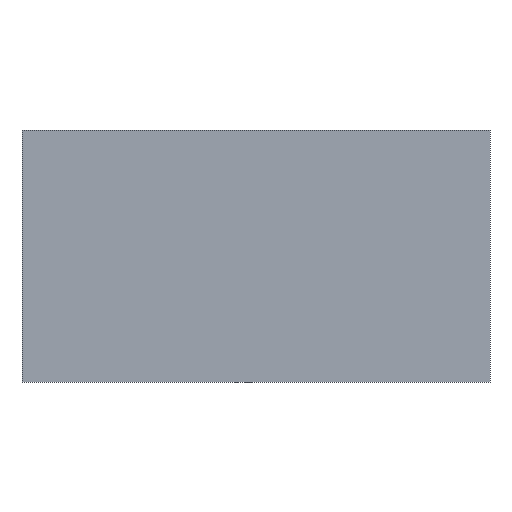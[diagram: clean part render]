
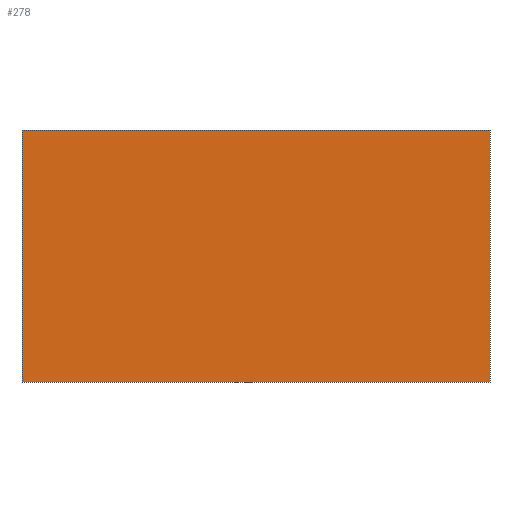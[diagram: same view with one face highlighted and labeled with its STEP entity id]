
A CAD part, front view. The second image highlights one B-rep face of the part: STEP entity #278.
In plain terms, the highlighted planar face has unit normal (0, -1, 0).
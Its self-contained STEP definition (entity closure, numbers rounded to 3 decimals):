
#62 = EDGE_CURVE('',#63,#65,#67,.T.);
#63 = VERTEX_POINT('',#64);
#64 = CARTESIAN_POINT('',(-26.,-0.25,-14.));
#65 = VERTEX_POINT('',#66);
#66 = CARTESIAN_POINT('',(-26.,-0.25,14.));
#67 = SURFACE_CURVE('',#68,(#72,#84),.PCURVE_S1.);
#68 = LINE('',#69,#70);
#69 = CARTESIAN_POINT('',(-26.,-0.25,-14.));
#70 = VECTOR('',#71,1.);
#71 = DIRECTION('',(0.,0.,1.));
#72 = PCURVE('',#73,#78);
#73 = PLANE('',#74);
#74 = AXIS2_PLACEMENT_3D('',#75,#76,#77);
#75 = CARTESIAN_POINT('',(-26.,-0.25,-14.));
#76 = DIRECTION('',(1.,0.,0.));
#77 = DIRECTION('',(0.,0.,1.));
#78 = DEFINITIONAL_REPRESENTATION('',(#79),#83);
#79 = LINE('',#80,#81);
#80 = CARTESIAN_POINT('',(0.,0.));
#81 = VECTOR('',#82,1.);
#82 = DIRECTION('',(1.,0.));
#83 = ( GEOMETRIC_REPRESENTATION_CONTEXT(2) 
PARAMETRIC_REPRESENTATION_CONTEXT() REPRESENTATION_CONTEXT('2D SPACE',''
  ) );
#84 = PCURVE('',#85,#90);
#85 = PLANE('',#86);
#86 = AXIS2_PLACEMENT_3D('',#87,#88,#89);
#87 = CARTESIAN_POINT('',(-26.,-0.25,-14.));
#88 = DIRECTION('',(0.,1.,0.));
#89 = DIRECTION('',(0.,-0.,1.));
#90 = DEFINITIONAL_REPRESENTATION('',(#91),#95);
#91 = LINE('',#92,#93);
#92 = CARTESIAN_POINT('',(0.,0.));
#93 = VECTOR('',#94,1.);
#94 = DIRECTION('',(1.,0.));
#95 = ( GEOMETRIC_REPRESENTATION_CONTEXT(2) 
PARAMETRIC_REPRESENTATION_CONTEXT() REPRESENTATION_CONTEXT('2D SPACE',''
  ) );
#113 = PLANE('',#114);
#114 = AXIS2_PLACEMENT_3D('',#115,#116,#117);
#115 = CARTESIAN_POINT('',(-26.,-0.25,-14.));
#116 = DIRECTION('',(0.,0.,1.));
#117 = DIRECTION('',(1.,0.,-0.));
#167 = PLANE('',#168);
#168 = AXIS2_PLACEMENT_3D('',#169,#170,#171);
#169 = CARTESIAN_POINT('',(-26.,-0.25,14.));
#170 = DIRECTION('',(0.,0.,1.));
#171 = DIRECTION('',(1.,0.,-0.));
#182 = EDGE_CURVE('',#183,#185,#187,.T.);
#183 = VERTEX_POINT('',#184);
#184 = CARTESIAN_POINT('',(26.,-0.25,-14.));
#185 = VERTEX_POINT('',#186);
#186 = CARTESIAN_POINT('',(26.,-0.25,14.));
#187 = SURFACE_CURVE('',#188,(#192,#204),.PCURVE_S1.);
#188 = LINE('',#189,#190);
#189 = CARTESIAN_POINT('',(26.,-0.25,-14.));
#190 = VECTOR('',#191,1.);
#191 = DIRECTION('',(0.,0.,1.));
#192 = PCURVE('',#193,#198);
#193 = PLANE('',#194);
#194 = AXIS2_PLACEMENT_3D('',#195,#196,#197);
#195 = CARTESIAN_POINT('',(26.,-0.25,-14.));
#196 = DIRECTION('',(1.,0.,0.));
#197 = DIRECTION('',(0.,0.,1.));
#198 = DEFINITIONAL_REPRESENTATION('',(#199),#203);
#199 = LINE('',#200,#201);
#200 = CARTESIAN_POINT('',(0.,0.));
#201 = VECTOR('',#202,1.);
#202 = DIRECTION('',(1.,0.));
#203 = ( GEOMETRIC_REPRESENTATION_CONTEXT(2) 
PARAMETRIC_REPRESENTATION_CONTEXT() REPRESENTATION_CONTEXT('2D SPACE',''
  ) );
#204 = PCURVE('',#85,#205);
#205 = DEFINITIONAL_REPRESENTATION('',(#206),#210);
#206 = LINE('',#207,#208);
#207 = CARTESIAN_POINT('',(0.,52.));
#208 = VECTOR('',#209,1.);
#209 = DIRECTION('',(1.,0.));
#210 = ( GEOMETRIC_REPRESENTATION_CONTEXT(2) 
PARAMETRIC_REPRESENTATION_CONTEXT() REPRESENTATION_CONTEXT('2D SPACE',''
  ) );
#278 = ADVANCED_FACE('',(#279),#85,.F.);
#279 = FACE_BOUND('',#280,.F.);
#280 = EDGE_LOOP('',(#281,#302,#303,#324));
#281 = ORIENTED_EDGE('',*,*,#282,.F.);
#282 = EDGE_CURVE('',#63,#183,#283,.T.);
#283 = SURFACE_CURVE('',#284,(#288,#295),.PCURVE_S1.);
#284 = LINE('',#285,#286);
#285 = CARTESIAN_POINT('',(-26.,-0.25,-14.));
#286 = VECTOR('',#287,1.);
#287 = DIRECTION('',(1.,0.,0.));
#288 = PCURVE('',#85,#289);
#289 = DEFINITIONAL_REPRESENTATION('',(#290),#294);
#290 = LINE('',#291,#292);
#291 = CARTESIAN_POINT('',(0.,0.));
#292 = VECTOR('',#293,1.);
#293 = DIRECTION('',(0.,1.));
#294 = ( GEOMETRIC_REPRESENTATION_CONTEXT(2) 
PARAMETRIC_REPRESENTATION_CONTEXT() REPRESENTATION_CONTEXT('2D SPACE',''
  ) );
#295 = PCURVE('',#113,#296);
#296 = DEFINITIONAL_REPRESENTATION('',(#297),#301);
#297 = LINE('',#298,#299);
#298 = CARTESIAN_POINT('',(0.,0.));
#299 = VECTOR('',#300,1.);
#300 = DIRECTION('',(1.,0.));
#301 = ( GEOMETRIC_REPRESENTATION_CONTEXT(2) 
PARAMETRIC_REPRESENTATION_CONTEXT() REPRESENTATION_CONTEXT('2D SPACE',''
  ) );
#302 = ORIENTED_EDGE('',*,*,#62,.T.);
#303 = ORIENTED_EDGE('',*,*,#304,.T.);
#304 = EDGE_CURVE('',#65,#185,#305,.T.);
#305 = SURFACE_CURVE('',#306,(#310,#317),.PCURVE_S1.);
#306 = LINE('',#307,#308);
#307 = CARTESIAN_POINT('',(-26.,-0.25,14.));
#308 = VECTOR('',#309,1.);
#309 = DIRECTION('',(1.,0.,0.));
#310 = PCURVE('',#85,#311);
#311 = DEFINITIONAL_REPRESENTATION('',(#312),#316);
#312 = LINE('',#313,#314);
#313 = CARTESIAN_POINT('',(28.,0.));
#314 = VECTOR('',#315,1.);
#315 = DIRECTION('',(0.,1.));
#316 = ( GEOMETRIC_REPRESENTATION_CONTEXT(2) 
PARAMETRIC_REPRESENTATION_CONTEXT() REPRESENTATION_CONTEXT('2D SPACE',''
  ) );
#317 = PCURVE('',#167,#318);
#318 = DEFINITIONAL_REPRESENTATION('',(#319),#323);
#319 = LINE('',#320,#321);
#320 = CARTESIAN_POINT('',(0.,0.));
#321 = VECTOR('',#322,1.);
#322 = DIRECTION('',(1.,0.));
#323 = ( GEOMETRIC_REPRESENTATION_CONTEXT(2) 
PARAMETRIC_REPRESENTATION_CONTEXT() REPRESENTATION_CONTEXT('2D SPACE',''
  ) );
#324 = ORIENTED_EDGE('',*,*,#182,.F.);
